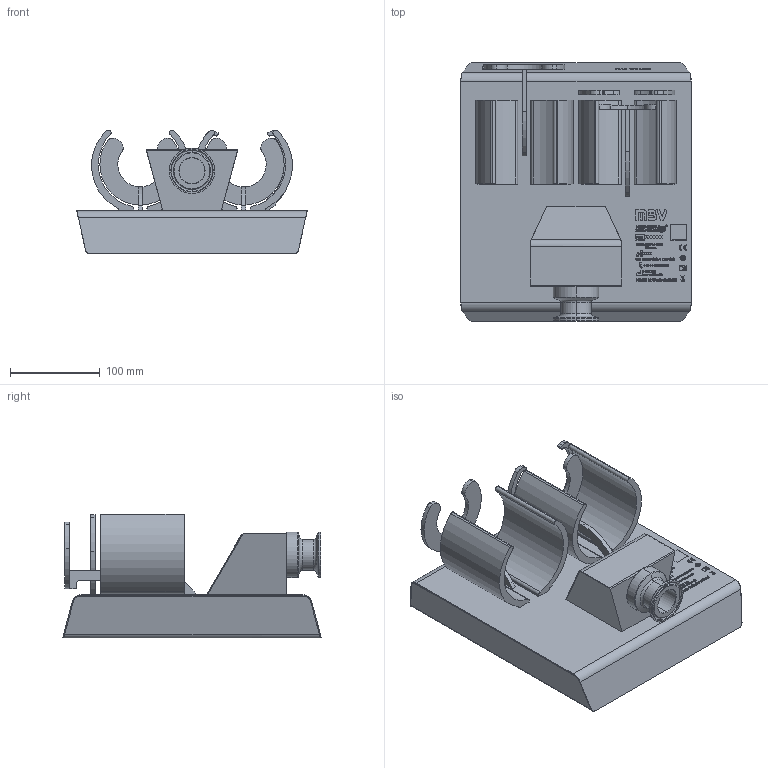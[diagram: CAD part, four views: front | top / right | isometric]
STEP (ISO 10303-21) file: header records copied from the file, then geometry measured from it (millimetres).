
FILE_DESCRIPTION (( 'STEP AP214' ), '1' );
FILE_NAME ('STEP Modell2.STEP', '2026-08-11T08:18:35', ( '' ), ( '' ), 'SwSTEP 2.0', 'SolidWorks 2023', '' );
FILE_SCHEMA (( 'AUTOMOTIVE_DESIGN' ));
Length unit declared in the file: millimetre
Products named in the file (1): STEP Modell2
Bounding box: 255.85 x 287.46 x 137.86 mm (x, y, z)
Volume: 3999608.3 mm3; surface area: 327684.3 mm2
Topology: 1 solids, 1 shells, 2539 faces, 6789 edges, 4506 vertices
Faces by surface type: plane 1555, bspline 606, cylinder 354, torus 14, cone 10
Entity records: 111550 total; most frequent: CARTESIAN_POINT 51673, ORIENTED_EDGE 13578, DIRECTION 10097, EDGE_CURVE 6789, VECTOR 4817, LINE 4817, VERTEX_POINT 4506, EDGE_LOOP 2793
